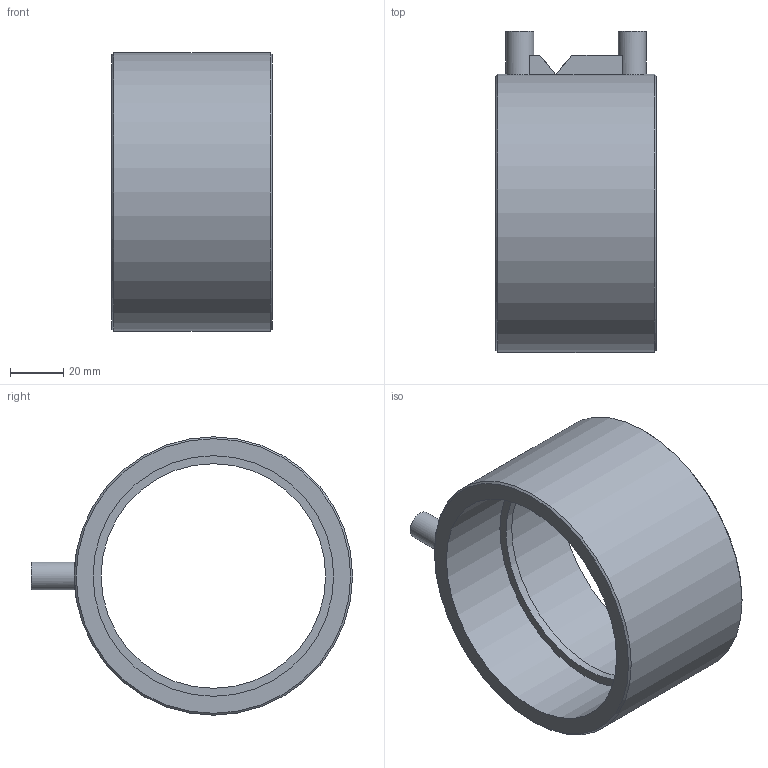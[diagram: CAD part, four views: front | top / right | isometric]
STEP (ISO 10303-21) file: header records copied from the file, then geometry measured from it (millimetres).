
FILE_DESCRIPTION(/* description */ (''),/* implementation_level */ '2;1');
FILE_NAME(/* name */ 'H:\Geberit-Teile\Export\Fertig zum Export\Elektro-Schweissmuffe_Ipart\stp\366771.stp',/* time_stamp */ '2017-07-24T13:33:24+02:00',/* author */ ('seihe2'),/* organization */ (''),/* preprocessor_version */ 'ST-DEVELOPER v15.2',/* originating_system */ 'Autodesk Inventor 2014',/* authorisation */ '');
FILE_SCHEMA (('AUTOMOTIVE_DESIGN { 1 0 10303 214 3 1 1 }'));
Length unit declared in the file: millimetre
Products named in the file (1): 366771
Bounding box: 60 x 120.1 x 104.1 mm (x, y, z)
Volume: 133912.4 mm3; surface area: 45486.4 mm2
Topology: 1 solids, 1 shells, 30 faces, 64 edges, 42 vertices
Faces by surface type: plane 14, cylinder 12, cone 4
Full cylindrical faces by diameter (mm): 7.4 x2, 10.4 x2, 84 x1, 90 x2, 92 x2, 104.1 x1
Entity records: 866 total; most frequent: CARTESIAN_POINT 242, DIRECTION 116, ORIENTED_EDGE 90, AXIS2_PLACEMENT_3D 52, EDGE_LOOP 51, EDGE_CURVE 45, VERTEX_POINT 36, STYLED_ITEM 31
